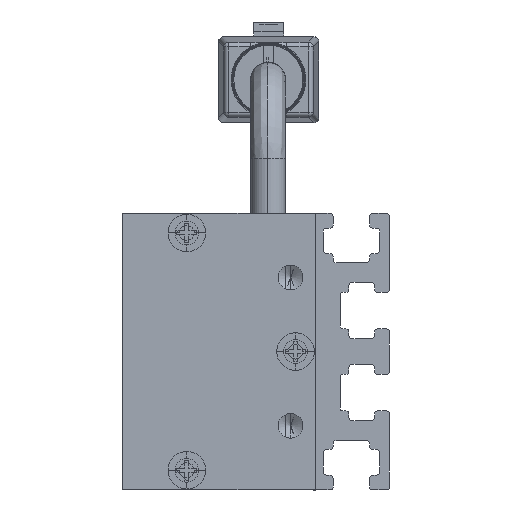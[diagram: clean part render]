
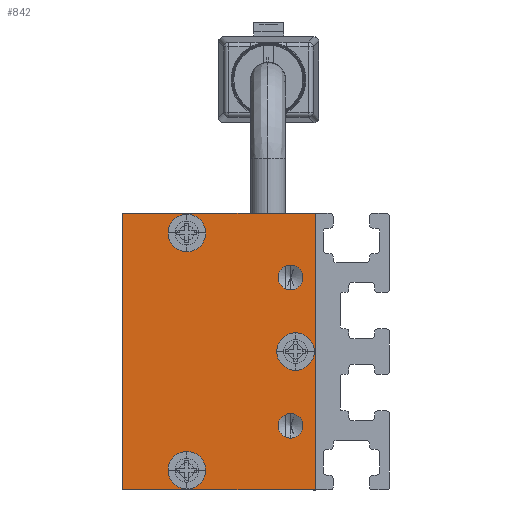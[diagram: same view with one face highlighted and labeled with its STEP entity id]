
A CAD part, left-side view. The second image highlights one B-rep face of the part: STEP entity #842.
In plain terms, the highlighted planar face has unit normal (-1, 0, 0) as drawn and (0, 0, -1) by its records, which use the part's own axes.
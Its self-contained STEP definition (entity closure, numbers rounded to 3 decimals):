
#122 = DIRECTION ( 'NONE',  ( -1., 0., 0. ) ) ;
#319 = DIRECTION ( 'NONE',  ( -1., 0., 0. ) ) ;
#333 = DIRECTION ( 'NONE',  ( -1., 0., 0. ) ) ;
#407 = DIRECTION ( 'NONE',  ( 0., 0., -1. ) ) ;
#483 = DIRECTION ( 'NONE',  ( 0., 0., -1. ) ) ;
#594 = VERTEX_POINT ( 'NONE', #9939 ) ;
#842 = ADVANCED_FACE ( 'NONE', ( #12541, #3062, #1848, #12471, #4975, #13616 ), #3902, .T. ) ;
#949 = CARTESIAN_POINT ( 'NONE',  ( 7.5, 2.5, -2.5 ) ) ;
#981 = CARTESIAN_POINT ( 'NONE',  ( 14., 19.5, -2.5 ) ) ;
#1228 = EDGE_CURVE ( 'NONE', #11427, #5143, #3566, .T. ) ;
#1436 = CARTESIAN_POINT ( 'NONE',  ( -13.9, 13., -2.5 ) ) ;
#1542 = CARTESIAN_POINT ( 'NONE',  ( -12., 13., -2.5 ) ) ;
#1659 = EDGE_CURVE ( 'NONE', #10919, #1791, #4024, .T. ) ;
#1712 = AXIS2_PLACEMENT_3D ( 'NONE', #5894, #483, #10262 ) ;
#1732 = EDGE_CURVE ( 'NONE', #1791, #594, #6502, .T. ) ;
#1791 = VERTEX_POINT ( 'NONE', #12869 ) ;
#1848 = FACE_BOUND ( 'NONE', #3905, .T. ) ;
#2074 = EDGE_CURVE ( 'NONE', #11966, #5322, #2219, .T. ) ;
#2116 = CARTESIAN_POINT ( 'NONE',  ( 6.25, 2.5, -2.5 ) ) ;
#2219 = CIRCLE ( 'NONE', #11941, 1.9 ) ;
#2345 = AXIS2_PLACEMENT_3D ( 'NONE', #4325, #3333, #122 ) ;
#2413 = CARTESIAN_POINT ( 'NONE',  ( 0., 2., -2.5 ) ) ;
#2458 = AXIS2_PLACEMENT_3D ( 'NONE', #3887, #8275, #13530 ) ;
#2621 = CIRCLE ( 'NONE', #12791, 1.9 ) ;
#2790 = ORIENTED_EDGE ( 'NONE', *, *, #11070, .F. ) ;
#2810 = AXIS2_PLACEMENT_3D ( 'NONE', #6136, #5991, #12642 ) ;
#3062 = FACE_BOUND ( 'NONE', #8158, .T. ) ;
#3133 = VECTOR ( 'NONE', #8326, 1000. ) ;
#3231 = DIRECTION ( 'NONE',  ( 0., 0., -1. ) ) ;
#3287 = CARTESIAN_POINT ( 'NONE',  ( 10.1, 13., -2.5 ) ) ;
#3333 = DIRECTION ( 'NONE',  ( 0., 0., -1. ) ) ;
#3394 = CARTESIAN_POINT ( 'NONE',  ( -6.25, 2.5, -2.5 ) ) ;
#3566 = CIRCLE ( 'NONE', #2458, 1.25 ) ;
#3637 = ORIENTED_EDGE ( 'NONE', *, *, #12862, .F. ) ;
#3781 = VERTEX_POINT ( 'NONE', #14036 ) ;
#3838 = DIRECTION ( 'NONE',  ( -1., 0., 0. ) ) ;
#3887 = CARTESIAN_POINT ( 'NONE',  ( -7.5, 2.5, -2.5 ) ) ;
#3902 = PLANE ( 'NONE',  #12628 ) ;
#3905 = EDGE_LOOP ( 'NONE', ( #7077, #6820 ) ) ;
#3940 = CIRCLE ( 'NONE', #2810, 1.25 ) ;
#4012 = CARTESIAN_POINT ( 'NONE',  ( -14., 19.5, -2.5 ) ) ;
#4024 = LINE ( 'NONE', #7431, #3133 ) ;
#4029 = VECTOR ( 'NONE', #13807, 1000. ) ;
#4325 = CARTESIAN_POINT ( 'NONE',  ( 12., 13., -2.5 ) ) ;
#4439 = CARTESIAN_POINT ( 'NONE',  ( 14., 19.5, -2.5 ) ) ;
#4677 = CIRCLE ( 'NONE', #1712, 1.9 ) ;
#4856 = CARTESIAN_POINT ( 'NONE',  ( -1.9, 2., -2.5 ) ) ;
#4975 = FACE_BOUND ( 'NONE', #11998, .T. ) ;
#5074 = CARTESIAN_POINT ( 'NONE',  ( 12., 13., -2.5 ) ) ;
#5143 = VERTEX_POINT ( 'NONE', #3394 ) ;
#5269 = CARTESIAN_POINT ( 'NONE',  ( 0., 0., -2.5 ) ) ;
#5322 = VERTEX_POINT ( 'NONE', #1436 ) ;
#5894 = CARTESIAN_POINT ( 'NONE',  ( -12., 13., -2.5 ) ) ;
#5899 = EDGE_LOOP ( 'NONE', ( #11734, #7343 ) ) ;
#5991 = DIRECTION ( 'NONE',  ( 0., 0., -1. ) ) ;
#6084 = DIRECTION ( 'NONE',  ( 0., 0., -1. ) ) ;
#6136 = CARTESIAN_POINT ( 'NONE',  ( 7.5, 2.5, -2.5 ) ) ;
#6145 = AXIS2_PLACEMENT_3D ( 'NONE', #2413, #407, #13179 ) ;
#6399 = VERTEX_POINT ( 'NONE', #4856 ) ;
#6437 = CIRCLE ( 'NONE', #10499, 1.25 ) ;
#6493 = EDGE_CURVE ( 'NONE', #3781, #6399, #2621, .T. ) ;
#6502 = LINE ( 'NONE', #9676, #4029 ) ;
#6600 = AXIS2_PLACEMENT_3D ( 'NONE', #6917, #9033, #319 ) ;
#6733 = CARTESIAN_POINT ( 'NONE',  ( -8.75, 2.5, -2.5 ) ) ;
#6820 = ORIENTED_EDGE ( 'NONE', *, *, #6493, .F. ) ;
#6917 = CARTESIAN_POINT ( 'NONE',  ( -7.5, 2.5, -2.5 ) ) ;
#7077 = ORIENTED_EDGE ( 'NONE', *, *, #11469, .F. ) ;
#7237 = EDGE_CURVE ( 'NONE', #5322, #11966, #4677, .T. ) ;
#7265 = DIRECTION ( 'NONE',  ( 0., 0., -1. ) ) ;
#7343 = ORIENTED_EDGE ( 'NONE', *, *, #13644, .F. ) ;
#7410 = ORIENTED_EDGE ( 'NONE', *, *, #2074, .F. ) ;
#7431 = CARTESIAN_POINT ( 'NONE',  ( -14., 0., -2.5 ) ) ;
#7726 = ORIENTED_EDGE ( 'NONE', *, *, #1732, .F. ) ;
#7895 = LINE ( 'NONE', #4439, #11426 ) ;
#8158 = EDGE_LOOP ( 'NONE', ( #12993, #7410 ) ) ;
#8275 = DIRECTION ( 'NONE',  ( 0., 0., -1. ) ) ;
#8326 = DIRECTION ( 'NONE',  ( 0., -1., 0. ) ) ;
#8394 = EDGE_CURVE ( 'NONE', #594, #9448, #7895, .T. ) ;
#8441 = CIRCLE ( 'NONE', #2345, 1.9 ) ;
#8456 = DIRECTION ( 'NONE',  ( 0., 0., -1. ) ) ;
#8726 = VERTEX_POINT ( 'NONE', #11908 ) ;
#9033 = DIRECTION ( 'NONE',  ( 0., 0., -1. ) ) ;
#9448 = VERTEX_POINT ( 'NONE', #981 ) ;
#9614 = CARTESIAN_POINT ( 'NONE',  ( -10.1, 13., -2.5 ) ) ;
#9676 = CARTESIAN_POINT ( 'NONE',  ( 14., 0., -2.5 ) ) ;
#9939 = CARTESIAN_POINT ( 'NONE',  ( 14., 0., -2.5 ) ) ;
#10071 = EDGE_CURVE ( 'NONE', #5143, #11427, #12699, .T. ) ;
#10129 = ORIENTED_EDGE ( 'NONE', *, *, #1228, .F. ) ;
#10262 = DIRECTION ( 'NONE',  ( -1., 0., 0. ) ) ;
#10301 = CARTESIAN_POINT ( 'NONE',  ( 8.75, 2.5, -2.5 ) ) ;
#10434 = ORIENTED_EDGE ( 'NONE', *, *, #13580, .F. ) ;
#10499 = AXIS2_PLACEMENT_3D ( 'NONE', #949, #8456, #10795 ) ;
#10724 = CARTESIAN_POINT ( 'NONE',  ( 0., 2., -2.5 ) ) ;
#10795 = DIRECTION ( 'NONE',  ( -1., 0., 0. ) ) ;
#10833 = EDGE_LOOP ( 'NONE', ( #3637, #10434 ) ) ;
#10919 = VERTEX_POINT ( 'NONE', #4012 ) ;
#11070 = EDGE_CURVE ( 'NONE', #9448, #10919, #12502, .T. ) ;
#11094 = VERTEX_POINT ( 'NONE', #10301 ) ;
#11229 = DIRECTION ( 'NONE',  ( -1., 0., 0. ) ) ;
#11396 = EDGE_LOOP ( 'NONE', ( #12525, #7726, #12498, #2790 ) ) ;
#11426 = VECTOR ( 'NONE', #13210, 1000. ) ;
#11427 = VERTEX_POINT ( 'NONE', #6733 ) ;
#11469 = EDGE_CURVE ( 'NONE', #6399, #3781, #12237, .T. ) ;
#11574 = DIRECTION ( 'NONE',  ( -1., 0., 0. ) ) ;
#11585 = VECTOR ( 'NONE', #11229, 1000. ) ;
#11694 = DIRECTION ( 'NONE',  ( 0., 0., -1. ) ) ;
#11734 = ORIENTED_EDGE ( 'NONE', *, *, #13521, .F. ) ;
#11908 = CARTESIAN_POINT ( 'NONE',  ( 13.9, 13., -2.5 ) ) ;
#11941 = AXIS2_PLACEMENT_3D ( 'NONE', #1542, #6084, #333 ) ;
#11966 = VERTEX_POINT ( 'NONE', #9614 ) ;
#11998 = EDGE_LOOP ( 'NONE', ( #10129, #13826 ) ) ;
#12002 = VERTEX_POINT ( 'NONE', #2116 ) ;
#12080 = CIRCLE ( 'NONE', #12309, 1.9 ) ;
#12237 = CIRCLE ( 'NONE', #6145, 1.9 ) ;
#12302 = VERTEX_POINT ( 'NONE', #3287 ) ;
#12309 = AXIS2_PLACEMENT_3D ( 'NONE', #5074, #7265, #11574 ) ;
#12471 = FACE_BOUND ( 'NONE', #5899, .T. ) ;
#12498 = ORIENTED_EDGE ( 'NONE', *, *, #1659, .F. ) ;
#12502 = LINE ( 'NONE', #13501, #11585 ) ;
#12525 = ORIENTED_EDGE ( 'NONE', *, *, #8394, .F. ) ;
#12541 = FACE_BOUND ( 'NONE', #10833, .T. ) ;
#12628 = AXIS2_PLACEMENT_3D ( 'NONE', #5269, #11694, #3838 ) ;
#12642 = DIRECTION ( 'NONE',  ( -1., 0., 0. ) ) ;
#12699 = CIRCLE ( 'NONE', #6600, 1.25 ) ;
#12791 = AXIS2_PLACEMENT_3D ( 'NONE', #10724, #3231, #12924 ) ;
#12862 = EDGE_CURVE ( 'NONE', #12302, #8726, #8441, .T. ) ;
#12869 = CARTESIAN_POINT ( 'NONE',  ( -14., 0., -2.5 ) ) ;
#12924 = DIRECTION ( 'NONE',  ( -1., 0., 0. ) ) ;
#12993 = ORIENTED_EDGE ( 'NONE', *, *, #7237, .F. ) ;
#13179 = DIRECTION ( 'NONE',  ( -1., 0., 0. ) ) ;
#13210 = DIRECTION ( 'NONE',  ( 0., 1., 0. ) ) ;
#13501 = CARTESIAN_POINT ( 'NONE',  ( -14., 19.5, -2.5 ) ) ;
#13521 = EDGE_CURVE ( 'NONE', #12002, #11094, #3940, .T. ) ;
#13530 = DIRECTION ( 'NONE',  ( -1., 0., 0. ) ) ;
#13580 = EDGE_CURVE ( 'NONE', #8726, #12302, #12080, .T. ) ;
#13616 = FACE_OUTER_BOUND ( 'NONE', #11396, .T. ) ;
#13644 = EDGE_CURVE ( 'NONE', #11094, #12002, #6437, .T. ) ;
#13807 = DIRECTION ( 'NONE',  ( 1., 0., 0. ) ) ;
#13826 = ORIENTED_EDGE ( 'NONE', *, *, #10071, .F. ) ;
#14036 = CARTESIAN_POINT ( 'NONE',  ( 1.9, 2., -2.5 ) ) ;
